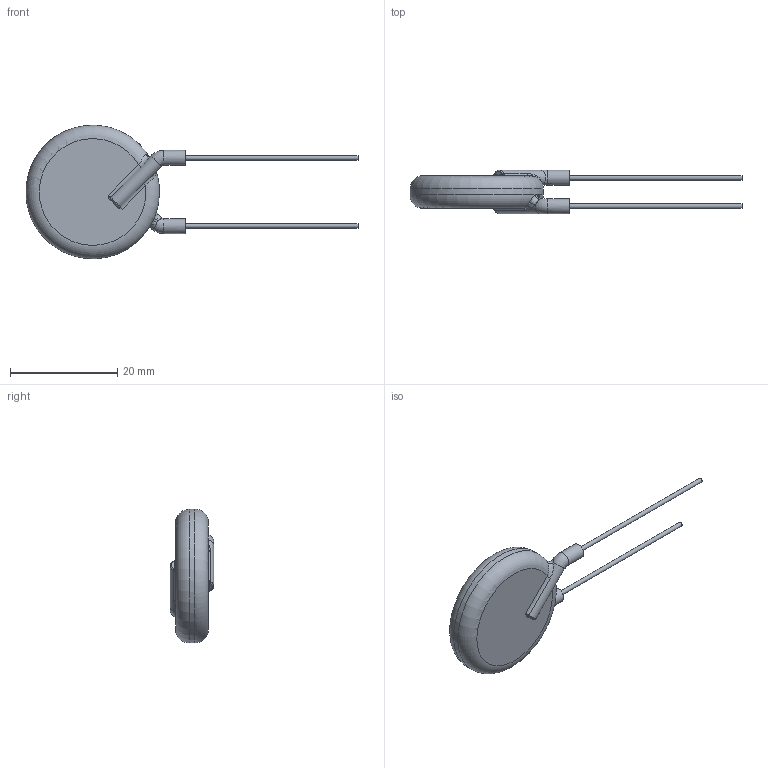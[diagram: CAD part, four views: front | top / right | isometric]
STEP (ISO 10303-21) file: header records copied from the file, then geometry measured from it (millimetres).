
FILE_DESCRIPTION((''),'2;1');
FILE_NAME('I:\Marketing\M6t1\3D-Models\Zchng-Werk-3\Upload for homepage\Ceramite\T3M-10kV\615R100GATD10\615R100GATD10.stp','2015-08-28T14:54:37',(''),(''),'Autodesk Inventor 2013','Autodesk Inventor 2013','');
FILE_SCHEMA(('AUTOMOTIVE_DESIGN { 1 0 10303 214 1 1 1 1 }'));
Length unit declared in the file: centimetre
Products named in the file (1): 615R100GATD10
Bounding box: 61.88 x 8.1 x 24.88 mm (x, y, z)
Volume: 2937.2 mm3; surface area: 1583.4 mm2
Topology: 1 solids, 1 shells, 45 faces, 102 edges, 57 vertices
Faces by surface type: bspline 14, cylinder 13, torus 10, plane 8
Full cylindrical faces by diameter (mm): 0.81 x2, 2.8 x2, 24.9 x1
Entity records: 1625 total; most frequent: CARTESIAN_POINT 684, ORIENTED_EDGE 172, DIRECTION 168, EDGE_CURVE 86, AXIS2_PLACEMENT_3D 78, EDGE_LOOP 54, VERTEX_POINT 52, CIRCLE 46
